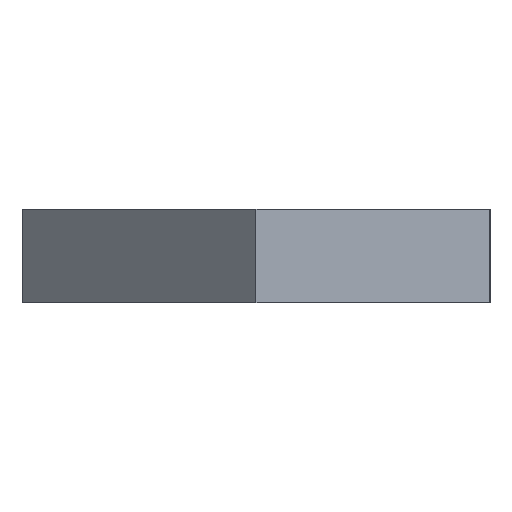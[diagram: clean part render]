
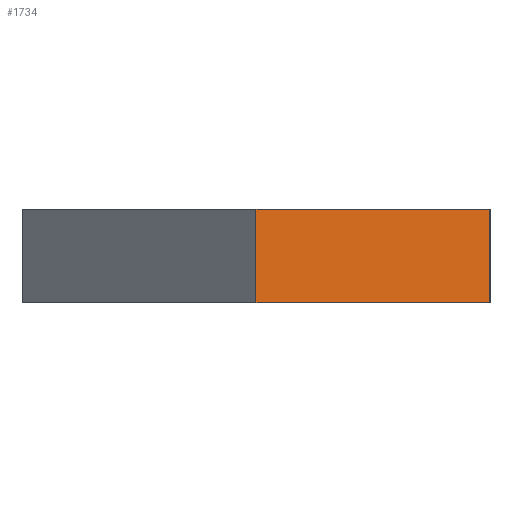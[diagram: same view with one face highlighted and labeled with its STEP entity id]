
A CAD part, left-side view. The second image highlights one B-rep face of the part: STEP entity #1734.
In plain terms, the highlighted planar face has unit normal (-0.707, -0.707, 0).
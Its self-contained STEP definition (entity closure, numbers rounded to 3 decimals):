
#122 = ORIENTED_EDGE ( 'NONE', *, *, #1423, .F. ) ;
#124 = ORIENTED_EDGE ( 'NONE', *, *, #1419, .F. ) ;
#131 = ORIENTED_EDGE ( 'NONE', *, *, #1421, .T. ) ;
#138 = ORIENTED_EDGE ( 'NONE', *, *, #1457, .T. ) ;
#239 = EDGE_LOOP ( 'NONE', ( #138, #124, #131, #122 ) ) ;
#497 = LINE ( 'NONE', #2455, #513 ) ;
#499 = VECTOR ( 'NONE', #2471, 1000. ) ;
#513 = VECTOR ( 'NONE', #2457, 1000. ) ;
#514 = LINE ( 'NONE', #2478, #499 ) ;
#519 = VECTOR ( 'NONE', #2440, 1000. ) ;
#541 = LINE ( 'NONE', #2429, #519 ) ;
#595 = VECTOR ( 'NONE', #1813, 1000. ) ;
#606 = LINE ( 'NONE', #1818, #595 ) ;
#825 = FACE_OUTER_BOUND ( 'NONE', #239, .T. ) ;
#1250 = AXIS2_PLACEMENT_3D ( 'NONE', #2687, #2706, #2658 ) ;
#1419 = EDGE_CURVE ( 'NONE', #2843, #2899, #497, .T. ) ;
#1421 = EDGE_CURVE ( 'NONE', #2843, #2893, #541, .T. ) ;
#1423 = EDGE_CURVE ( 'NONE', #2833, #2893, #514, .T. ) ;
#1457 = EDGE_CURVE ( 'NONE', #2833, #2899, #606, .T. ) ;
#1734 = ADVANCED_FACE ( 'NONE', ( #825 ), #2691, .F. ) ;
#1813 = DIRECTION ( 'NONE',  ( -0.707, 0.707, 0. ) ) ;
#1818 = CARTESIAN_POINT ( 'NONE',  ( -350.5, 0., 2. ) ) ;
#2429 = CARTESIAN_POINT ( 'NONE',  ( -175.25, -175.25, 0. ) ) ;
#2440 = DIRECTION ( 'NONE',  ( 0.707, -0.707, 0. ) ) ;
#2455 = CARTESIAN_POINT ( 'NONE',  ( -350.5, 0., 0. ) ) ;
#2457 = DIRECTION ( 'NONE',  ( 0., 0., 1. ) ) ;
#2471 = DIRECTION ( 'NONE',  ( 0., 0., -1. ) ) ;
#2478 = CARTESIAN_POINT ( 'NONE',  ( -345.5, -5., 2. ) ) ;
#2658 = DIRECTION ( 'NONE',  ( -0.707, 0.707, 0. ) ) ;
#2687 = CARTESIAN_POINT ( 'NONE',  ( -350.5, 0., 0. ) ) ;
#2689 = CARTESIAN_POINT ( 'NONE',  ( -345.5, -5., 2. ) ) ;
#2691 = PLANE ( 'NONE',  #1250 ) ;
#2701 = CARTESIAN_POINT ( 'NONE',  ( -350.5, 0., 0. ) ) ;
#2706 = DIRECTION ( 'NONE',  ( 0.707, 0.707, 0. ) ) ;
#2710 = CARTESIAN_POINT ( 'NONE',  ( -345.5, -5., 0. ) ) ;
#2719 = CARTESIAN_POINT ( 'NONE',  ( -350.5, 0., 2. ) ) ;
#2833 = VERTEX_POINT ( 'NONE', #2689 ) ;
#2843 = VERTEX_POINT ( 'NONE', #2701 ) ;
#2893 = VERTEX_POINT ( 'NONE', #2710 ) ;
#2899 = VERTEX_POINT ( 'NONE', #2719 ) ;
